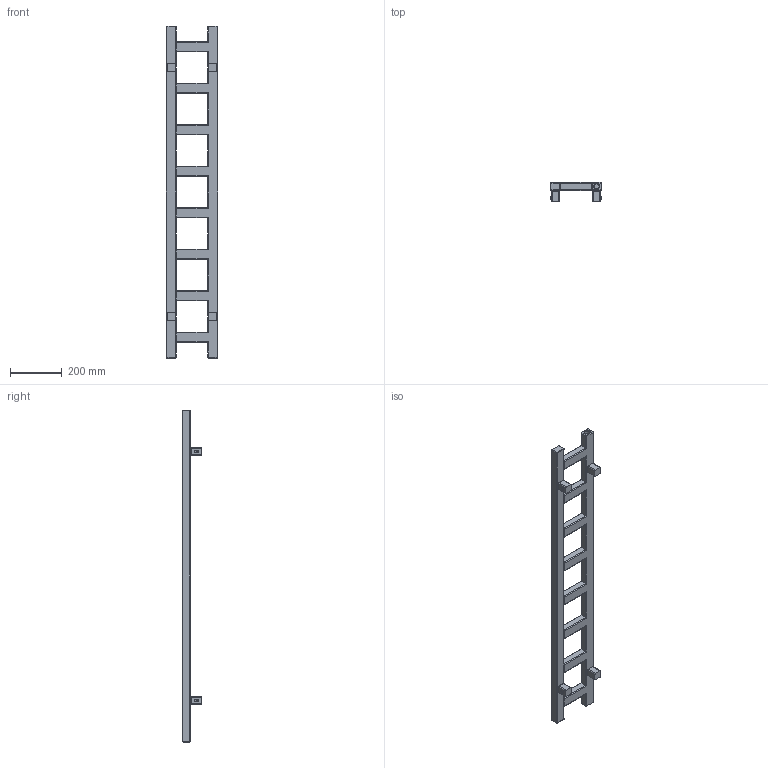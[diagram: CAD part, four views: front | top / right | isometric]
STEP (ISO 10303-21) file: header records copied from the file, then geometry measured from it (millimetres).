
FILE_DESCRIPTION((''),'2;1');
FILE_NAME('Z:\R\G\P\RGP102 - Grzejnik Easy 2012\Work\Inventor\Marketing\Modele AutoCAD\EAS-200-1280 S5.stp','2012-07-02T08:14:25',('KurKa'),(''),'Autodesk Inventor 2012','Autodesk Inventor 2012','');
FILE_SCHEMA(('AUTOMOTIVE_DESIGN { 1 0 10303 214 1 1 1 1 }'));
Length unit declared in the file: millimetre
Products named in the file (3): EAS-200-1280 S5; MMT42_marketing
Assembly tree (5 placements, depth 2):
  EAS-200-1280 S5
    EAS-200-1280 S5
    MMT42_marketing  x4
Bounding box: 200 x 72 x 1280 mm (x, y, z)
Volume: 4329543.8 mm3; surface area: 496877.6 mm2
Topology: 5 solids, 5 shells, 334 faces, 794 edges, 467 vertices
Faces by surface type: plane 163, cylinder 122, cone 27, sphere 14, torus 8
Full cylindrical faces by diameter (mm): 4.509 x4, 12 x4, 18.631 x3
Entity records: 5536 total; most frequent: DIRECTION 1007, CARTESIAN_POINT 936, ORIENTED_EDGE 886, EDGE_CURVE 443, AXIS2_PLACEMENT_3D 361, VECTOR 285, LINE 285, VERTEX_POINT 250
